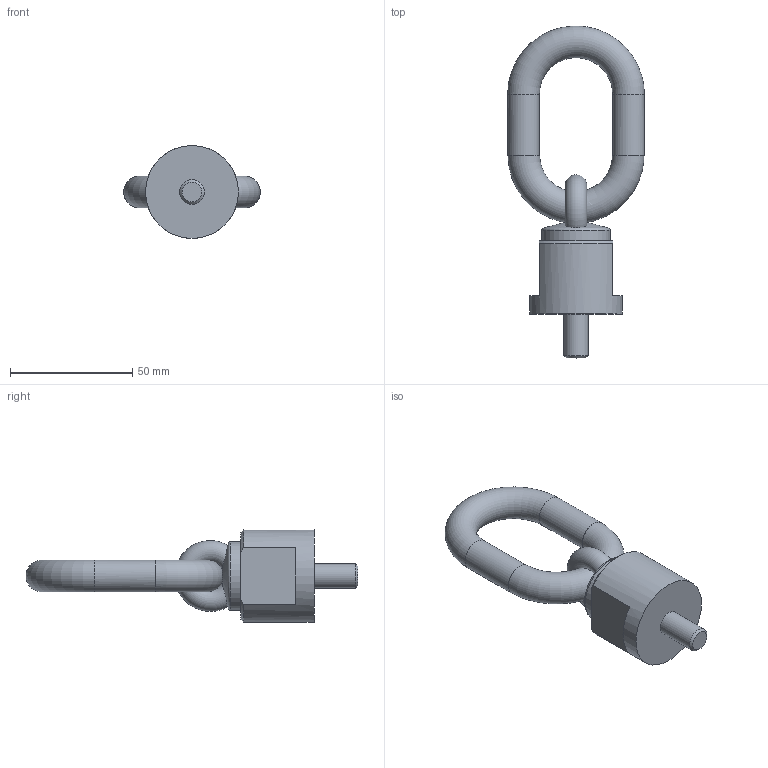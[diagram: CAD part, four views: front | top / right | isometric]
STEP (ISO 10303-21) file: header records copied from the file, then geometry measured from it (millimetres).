
FILE_DESCRIPTION( ( 'STEP AP203' ), '1' );
FILE_NAME( 'p:/temp/worker_6/temp/app_46_0201906261613508100580710e898ce_000000_00_00_000000/format_4/C8000031018.stp', '2019-06-26T14:13:54', ( '' ), ( '' ), ' ', 'PARTsolutions', ' ' );
FILE_SCHEMA( ( 'CONFIG_CONTROL_DESIGN' ) );
Length unit declared in the file: millimetre
Products named in the file (1): _C8000031018
Bounding box: 56 x 135.98 x 38 mm (x, y, z)
Volume: 63499.9 mm3; surface area: 14899.9 mm2
Topology: 1 solids, 1 shells, 25 faces, 65 edges, 40 vertices
Faces by surface type: plane 12, cylinder 5, torus 4, cone 4
Full cylindrical faces by diameter (mm): 10 x1, 13 x2, 28.2 x1, 38 x1
Entity records: 1060 total; most frequent: CARTESIAN_POINT 503, DIRECTION 110, ORIENTED_EDGE 86, AXIS2_PLACEMENT_3D 51, EDGE_CURVE 43, EDGE_LOOP 42, FACE_OUTER_BOUND 34, VERTEX_POINT 32
